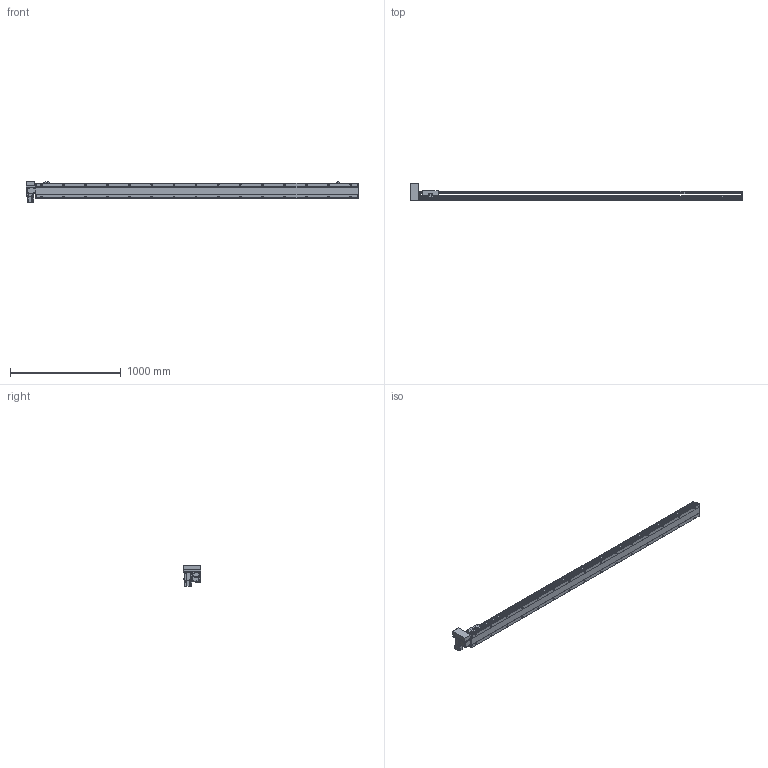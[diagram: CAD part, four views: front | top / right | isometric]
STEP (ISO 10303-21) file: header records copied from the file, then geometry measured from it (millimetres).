
FILE_DESCRIPTION(/* description */ ('STEP AP214'),/* implementation_level */ '2;1');
FILE_NAME(/* name */ 'PBS140S-P40-S2650-RU-T40-C1-N(0)',/* time_stamp */ '2022-06-09T02:57:12+02:00',/* author */ ('License CC BY-ND 4.0'),/* organization */ ('CADENAS'),/* preprocessor_version */ 'ST-DEVELOPER v18.102',/* originating_system */ 'PARTsolutions',/* authorisation */ ' ');
FILE_SCHEMA (('AUTOMOTIVE_DESIGN {1 0 10303 214 3 1 1}'));
Length unit declared in the file: millimetre
Products named in the file (7): PBS140S-P40-S2650-RU-T40-C1-N(0); PBS140S_sensor; PBS140S_plant; PBS140S_sliser; T40-p1; PBS140ST-RU_motors; PBS140S-S2650()_body
Assembly tree (8 placements, depth 2):
  PBS140S-P40-S2650-RU-T40-C1-N(0)
    PBS140S_sensor  x3
    PBS140S_plant
    PBS140S_sliser
    T40-p1
    PBS140ST-RU_motors
    PBS140S-S2650()_body
Bounding box: 3004 x 162.5 x 189.7 mm (x, y, z)
Volume: 14554457.2 mm3; surface area: 2448058.8 mm2
Topology: 8 solids, 8 shells, 1211 faces, 3191 edges, 2087 vertices
Faces by surface type: plane 744, cylinder 401, cone 56, sphere 8, torus 2
Full cylindrical faces by diameter (mm): 3.242 x4, 4 x2, 4.134 x4, 4.4 x8, 4.5 x2, 4.8 x4, 4.917 x38, 5.5 x7, 6 x2, 7 x32, 7.5 x8, 8 x12, 8.5 x4, 10.5 x30, 14 x1, 30 x2, 50 x2
Entity records: 34702 total; most frequent: CARTESIAN_POINT 6600, DIRECTION 5838, ORIENTED_EDGE 5482, EDGE_CURVE 2741, AXIS2_PLACEMENT_3D 2069, VERTEX_POINT 1921, LINE 1700, VECTOR 1700
